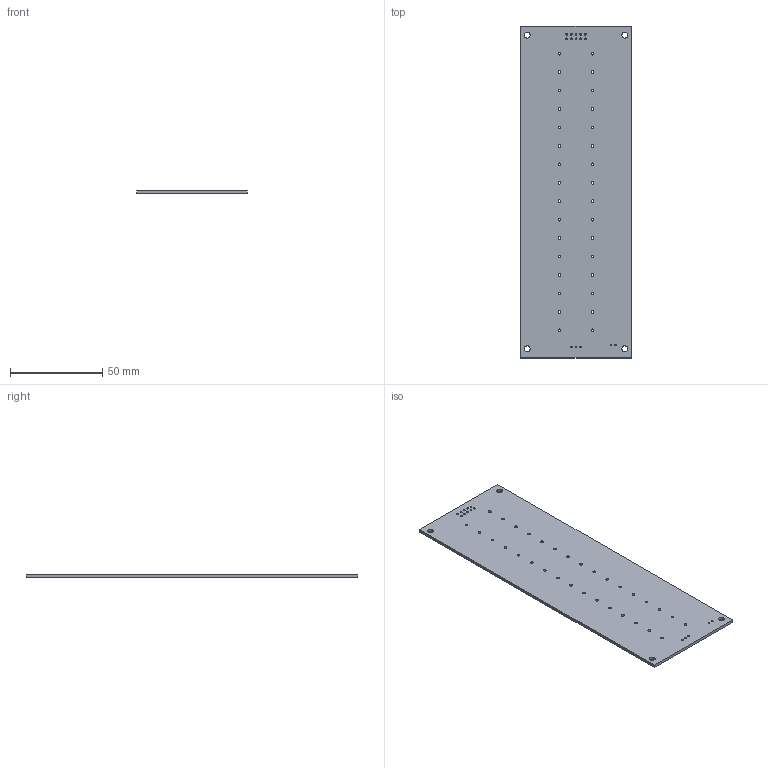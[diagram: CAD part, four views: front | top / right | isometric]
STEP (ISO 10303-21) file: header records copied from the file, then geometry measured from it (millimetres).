
FILE_DESCRIPTION(('Open CASCADE Model'),'2;1');
FILE_NAME('Open CASCADE Shape Model','2026-10-05T11:00:28',('Author'),( 'Open CASCADE'),'Open CASCADE STEP processor 7.9','Open CASCADE 7.9' ,'Unknown');
FILE_SCHEMA(('AUTOMOTIVE_DESIGN { 1 0 10303 214 1 1 1 1 }'));
Length unit declared in the file: millimetre
Products named in the file (1): Open CASCADE STEP translator 7.9 1
Bounding box: 60 x 180 x 1.6 mm (x, y, z)
Volume: 17120.1 mm3; surface area: 22547.1 mm2
Topology: 1 solids, 1 shells, 57 faces, 165 edges, 110 vertices
Faces by surface type: cylinder 51, plane 6
Full cylindrical faces by diameter (mm): 0.8 x2, 1 x13, 1.5 x32, 3.2 x4
Entity records: 4606 total; most frequent: CARTESIAN_POINT 1275, DIRECTION 611, ORIENTED_EDGE 330, PCURVE 330, DEFINITIONAL_REPRESENTATION 330, LINE 291, VECTOR 291, EDGE_CURVE 165
